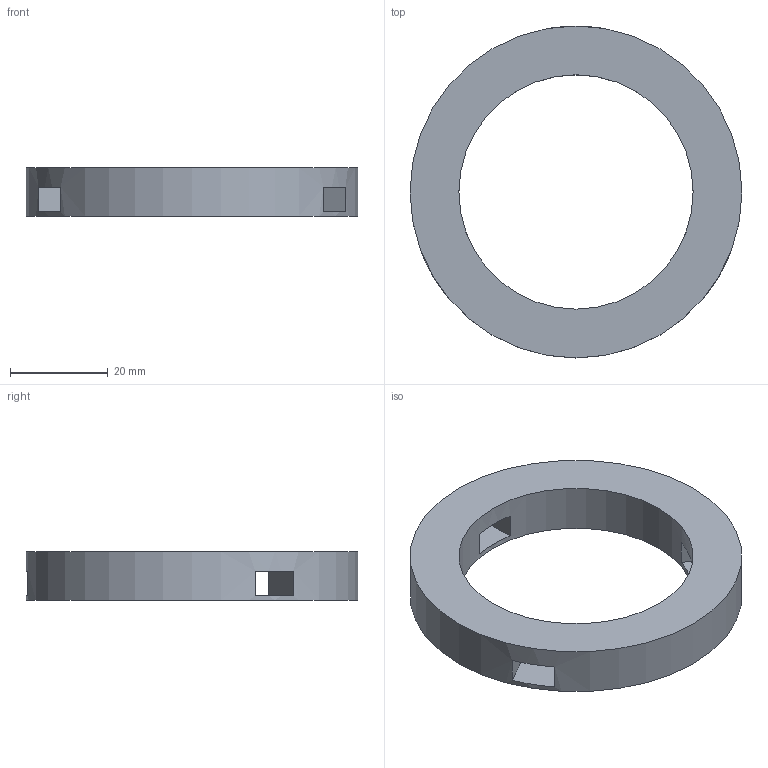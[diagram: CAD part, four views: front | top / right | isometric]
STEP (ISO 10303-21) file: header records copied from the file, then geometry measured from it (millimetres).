
FILE_DESCRIPTION(('Open CASCADE Model'),'2;1');
FILE_NAME('Open CASCADE Shape Model','2026-10-04T01:02:29',('Author'),( 'Open CASCADE'),'Open CASCADE STEP processor 8.0','Open CASCADE 8.0' ,'Unknown');
FILE_SCHEMA(('AUTOMOTIVE_DESIGN { 1 0 10303 214 1 1 1 1 }'));
Length unit declared in the file: millimetre
Products named in the file (1): Open CASCADE STEP translator 8.0 186
Bounding box: 68 x 68 x 10 mm (x, y, z)
Volume: 16865.6 mm3; surface area: 7863.3 mm2
Topology: 1 solids, 1 shells, 16 faces, 42 edges, 28 vertices
Faces by surface type: plane 14, cylinder 2
Full cylindrical faces by diameter (mm): 48 x1, 68 x1
Entity records: 1074 total; most frequent: DIRECTION 176, CARTESIAN_POINT 171, LINE 94, VECTOR 94, ORIENTED_EDGE 84, PCURVE 84, DEFINITIONAL_REPRESENTATION 84, EDGE_CURVE 42
